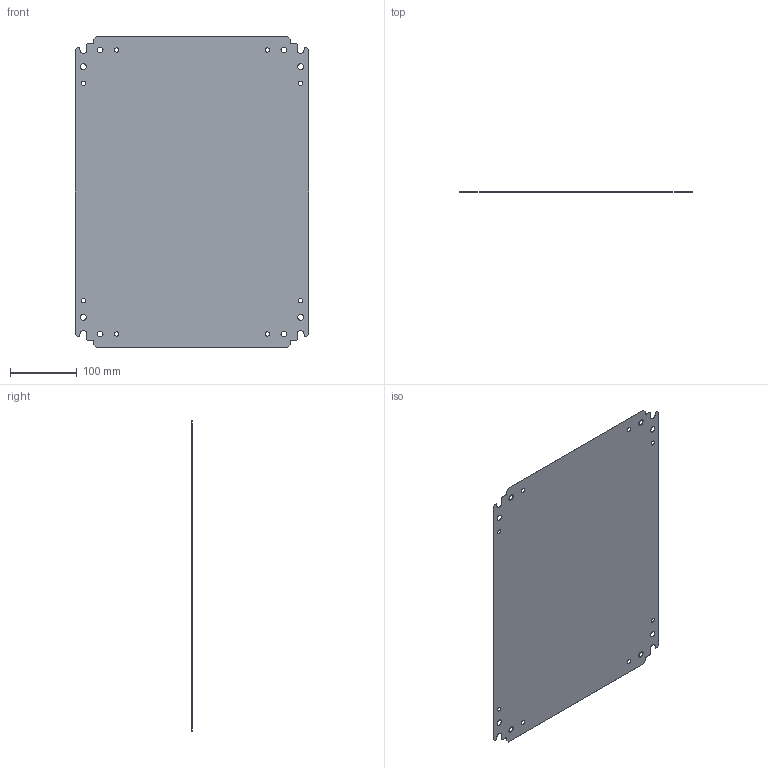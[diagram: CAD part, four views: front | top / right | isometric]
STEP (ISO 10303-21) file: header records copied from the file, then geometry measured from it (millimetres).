
FILE_DESCRIPTION( ( 'Unknown' ), '1' );
FILE_NAME( 'f:/batch/stp/PWPA5343.stp', 'Unknown', ( 'Unknown' ), ( 'Unknown' ), 'PSStep 10.1', 'Unknown', ' ' );
FILE_SCHEMA( ( 'AUTOMOTIVE_DESIGN { 1 0 10303 214 1 1 1 1 }' ) );
Length unit declared in the file: millimetre
Products named in the file (2): Assem1; COM53897
Bounding box: 349.99 x 0.32 x 465 mm (x, y, z)
Surface area: 641537.4 mm2
Topology: 2 solids, 2 shells, 124 faces, 392 edges, 272 vertices
Faces by surface type: plane 68, cylinder 56
Full cylindrical faces by diameter (mm): 6.502 x16, 8.738 x16
Entity records: 2078 total; most frequent: CARTESIAN_POINT 348, DIRECTION 348, ORIENTED_EDGE 328, EDGE_CURVE 164, AXIS2_PLACEMENT_3D 120, VERTEX_POINT 120, EDGE_LOOP 110, LINE 108
